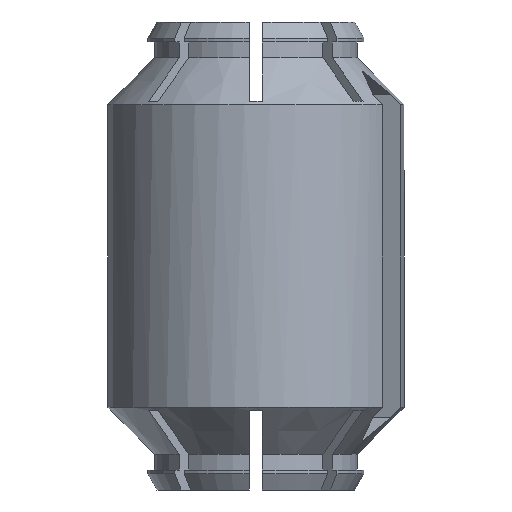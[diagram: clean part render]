
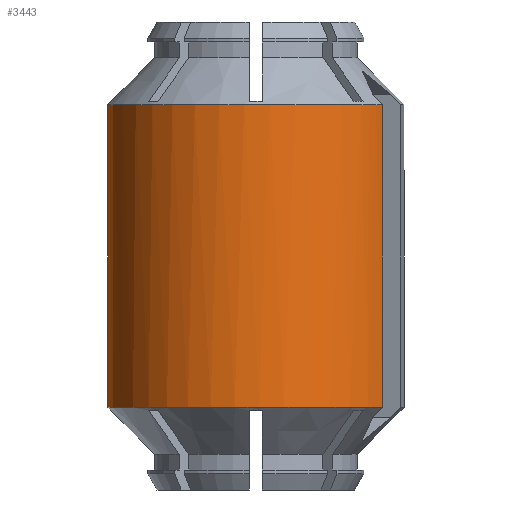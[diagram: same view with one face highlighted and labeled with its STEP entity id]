
A CAD part, front view. The second image highlights one B-rep face of the part: STEP entity #3443.
In plain terms, the highlighted cylindrical face has radius 11.236 mm (diameter 22.471 mm), a partial arc.
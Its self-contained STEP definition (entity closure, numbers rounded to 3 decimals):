
#40=CYLINDRICAL_SURFACE('',#3745,11.236);
#150=CIRCLE('',#3706,11.236);
#152=CIRCLE('',#3708,11.236);
#175=CIRCLE('',#3746,11.236);
#375=FACE_OUTER_BOUND('',#555,.T.);
#555=EDGE_LOOP('',(#2776,#2777,#2778,#2779,#2780));
#747=LINE('',#5552,#963);
#750=LINE('',#5570,#966);
#963=VECTOR('',#4359,10.);
#966=VECTOR('',#4364,10.);
#1410=VERTEX_POINT('',#5503);
#1411=VERTEX_POINT('',#5505);
#1414=VERTEX_POINT('',#5519);
#1421=VERTEX_POINT('',#5551);
#1426=VERTEX_POINT('',#5566);
#1862=EDGE_CURVE('',#1410,#1411,#150,.T.);
#1868=EDGE_CURVE('',#1414,#1410,#152,.T.);
#1878=EDGE_CURVE('',#1421,#1411,#747,.T.);
#1884=EDGE_CURVE('',#1414,#1426,#750,.T.);
#1938=EDGE_CURVE('',#1421,#1426,#175,.T.);
#2776=ORIENTED_EDGE('',*,*,#1884,.T.);
#2777=ORIENTED_EDGE('',*,*,#1938,.F.);
#2778=ORIENTED_EDGE('',*,*,#1878,.T.);
#2779=ORIENTED_EDGE('',*,*,#1862,.F.);
#2780=ORIENTED_EDGE('',*,*,#1868,.F.);
#3443=ADVANCED_FACE('',(#375),#40,.T.);
#3706=AXIS2_PLACEMENT_3D('',#5506,#4333,#4334);
#3708=AXIS2_PLACEMENT_3D('',#5523,#4337,#4338);
#3745=AXIS2_PLACEMENT_3D('',#5725,#4426,#4427);
#3746=AXIS2_PLACEMENT_3D('',#5726,#4428,#4429);
#4333=DIRECTION('center_axis',(0.,0.,1.));
#4334=DIRECTION('ref_axis',(0.707,-0.707,0.));
#4337=DIRECTION('center_axis',(0.,0.,1.));
#4338=DIRECTION('ref_axis',(0.707,-0.707,0.));
#4359=DIRECTION('',(0.,0.,1.));
#4364=DIRECTION('',(0.,0.,-1.));
#4426=DIRECTION('center_axis',(0.,0.,-1.));
#4427=DIRECTION('ref_axis',(-1.,0.,0.));
#4428=DIRECTION('center_axis',(0.,0.,-1.));
#4429=DIRECTION('ref_axis',(1.,0.,0.));
#5503=CARTESIAN_POINT('',(7.945,-7.945,29.177));
#5505=CARTESIAN_POINT('',(9.584,-5.864,29.177));
#5506=CARTESIAN_POINT('Origin',(0.,0.,
29.177));
#5519=CARTESIAN_POINT('',(-10.923,2.63,29.177));
#5523=CARTESIAN_POINT('Origin',(0.,0.,
29.177));
#5551=CARTESIAN_POINT('',(9.584,-5.864,6.248));
#5552=CARTESIAN_POINT('',(9.584,-5.864,23.445));
#5566=CARTESIAN_POINT('',(-10.923,2.63,6.248));
#5570=CARTESIAN_POINT('',(-10.923,2.63,11.98));
#5725=CARTESIAN_POINT('Origin',(0.,0.,11.98));
#5726=CARTESIAN_POINT('Origin',(0.,0.,6.248));
